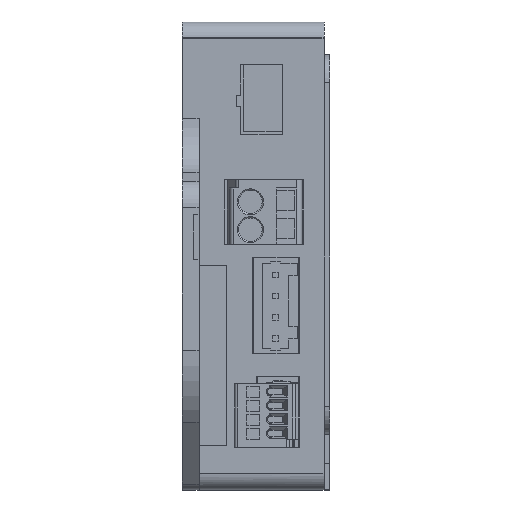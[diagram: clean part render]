
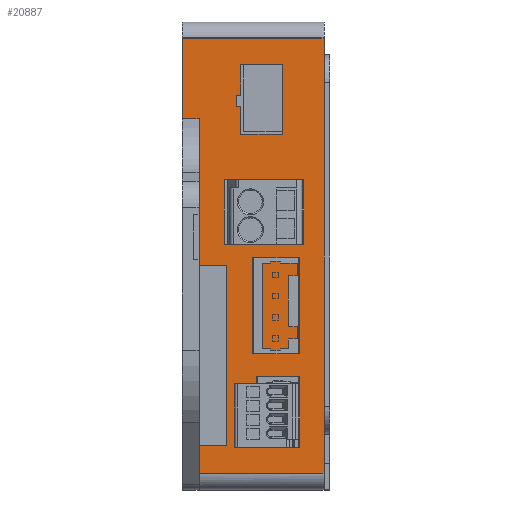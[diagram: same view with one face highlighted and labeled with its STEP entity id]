
A CAD part, front view. The second image highlights one B-rep face of the part: STEP entity #20887.
In plain terms, the highlighted planar face has unit normal (0, -1, 0).
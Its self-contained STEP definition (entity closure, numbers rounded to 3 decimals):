
#165=FACE_BOUND('',#2667,.T.);
#1566=FACE_OUTER_BOUND('',#2666,.T.);
#2666=EDGE_LOOP('',(#17368,#17369,#17370,#17371,#17372,#17373,#17374,#17375,
#17376,#17377,#17378,#17379,#17380,#17381));
#2667=EDGE_LOOP('',(#17382,#17383,#17384,#17385,#17386,#17387,#17388,#17389));
#4952=LINE('',#32615,#7438);
#4977=LINE('',#32691,#7463);
#4981=LINE('',#32699,#7467);
#4985=LINE('',#32707,#7471);
#4986=LINE('',#32709,#7472);
#4987=LINE('',#32711,#7473);
#4988=LINE('',#32713,#7474);
#4989=LINE('',#32715,#7475);
#4990=LINE('',#32717,#7476);
#4991=LINE('',#32719,#7477);
#4992=LINE('',#32721,#7478);
#4993=LINE('',#32723,#7479);
#4994=LINE('',#32725,#7480);
#4995=LINE('',#32726,#7481);
#4996=LINE('',#32729,#7482);
#4997=LINE('',#32731,#7483);
#4998=LINE('',#32733,#7484);
#4999=LINE('',#32735,#7485);
#5000=LINE('',#32737,#7486);
#5001=LINE('',#32739,#7487);
#5002=LINE('',#32741,#7488);
#5003=LINE('',#32742,#7489);
#7438=VECTOR('',#26850,10.);
#7463=VECTOR('',#26891,10.);
#7467=VECTOR('',#26899,10.);
#7471=VECTOR('',#26907,10.);
#7472=VECTOR('',#26908,10.);
#7473=VECTOR('',#26909,10.);
#7474=VECTOR('',#26910,10.);
#7475=VECTOR('',#26911,10.);
#7476=VECTOR('',#26912,10.);
#7477=VECTOR('',#26913,10.);
#7478=VECTOR('',#26914,10.);
#7479=VECTOR('',#26915,10.);
#7480=VECTOR('',#26916,10.);
#7481=VECTOR('',#26917,10.);
#7482=VECTOR('',#26918,10.);
#7483=VECTOR('',#26919,10.);
#7484=VECTOR('',#26920,10.);
#7485=VECTOR('',#26921,10.);
#7486=VECTOR('',#26922,10.);
#7487=VECTOR('',#26923,10.);
#7488=VECTOR('',#26924,10.);
#7489=VECTOR('',#26925,10.);
#9403=VERTEX_POINT('',#32613);
#9404=VERTEX_POINT('',#32614);
#9423=VERTEX_POINT('',#32690);
#9425=VERTEX_POINT('',#32698);
#9427=VERTEX_POINT('',#32706);
#9428=VERTEX_POINT('',#32708);
#9429=VERTEX_POINT('',#32710);
#9430=VERTEX_POINT('',#32712);
#9431=VERTEX_POINT('',#32714);
#9432=VERTEX_POINT('',#32716);
#9433=VERTEX_POINT('',#32718);
#9434=VERTEX_POINT('',#32720);
#9435=VERTEX_POINT('',#32722);
#9436=VERTEX_POINT('',#32724);
#9437=VERTEX_POINT('',#32727);
#9438=VERTEX_POINT('',#32728);
#9439=VERTEX_POINT('',#32730);
#9440=VERTEX_POINT('',#32732);
#9441=VERTEX_POINT('',#32734);
#9442=VERTEX_POINT('',#32736);
#9443=VERTEX_POINT('',#32738);
#9444=VERTEX_POINT('',#32740);
#12095=EDGE_CURVE('',#9403,#9404,#4952,.T.);
#12124=EDGE_CURVE('',#9404,#9423,#4977,.T.);
#12128=EDGE_CURVE('',#9423,#9425,#4981,.T.);
#12132=EDGE_CURVE('',#9427,#9425,#4985,.T.);
#12133=EDGE_CURVE('',#9427,#9428,#4986,.T.);
#12134=EDGE_CURVE('',#9428,#9429,#4987,.T.);
#12135=EDGE_CURVE('',#9430,#9429,#4988,.T.);
#12136=EDGE_CURVE('',#9430,#9431,#4989,.T.);
#12137=EDGE_CURVE('',#9431,#9432,#4990,.T.);
#12138=EDGE_CURVE('',#9433,#9432,#4991,.T.);
#12139=EDGE_CURVE('',#9433,#9434,#4992,.T.);
#12140=EDGE_CURVE('',#9434,#9435,#4993,.T.);
#12141=EDGE_CURVE('',#9436,#9435,#4994,.T.);
#12142=EDGE_CURVE('',#9403,#9436,#4995,.T.);
#12143=EDGE_CURVE('',#9437,#9438,#4996,.T.);
#12144=EDGE_CURVE('',#9438,#9439,#4997,.T.);
#12145=EDGE_CURVE('',#9439,#9440,#4998,.T.);
#12146=EDGE_CURVE('',#9440,#9441,#4999,.T.);
#12147=EDGE_CURVE('',#9441,#9442,#5000,.T.);
#12148=EDGE_CURVE('',#9442,#9443,#5001,.T.);
#12149=EDGE_CURVE('',#9443,#9444,#5002,.T.);
#12150=EDGE_CURVE('',#9444,#9437,#5003,.T.);
#17368=ORIENTED_EDGE('',*,*,#12095,.T.);
#17369=ORIENTED_EDGE('',*,*,#12124,.T.);
#17370=ORIENTED_EDGE('',*,*,#12128,.T.);
#17371=ORIENTED_EDGE('',*,*,#12132,.F.);
#17372=ORIENTED_EDGE('',*,*,#12133,.T.);
#17373=ORIENTED_EDGE('',*,*,#12134,.T.);
#17374=ORIENTED_EDGE('',*,*,#12135,.F.);
#17375=ORIENTED_EDGE('',*,*,#12136,.T.);
#17376=ORIENTED_EDGE('',*,*,#12137,.T.);
#17377=ORIENTED_EDGE('',*,*,#12138,.F.);
#17378=ORIENTED_EDGE('',*,*,#12139,.T.);
#17379=ORIENTED_EDGE('',*,*,#12140,.T.);
#17380=ORIENTED_EDGE('',*,*,#12141,.F.);
#17381=ORIENTED_EDGE('',*,*,#12142,.F.);
#17382=ORIENTED_EDGE('',*,*,#12143,.T.);
#17383=ORIENTED_EDGE('',*,*,#12144,.T.);
#17384=ORIENTED_EDGE('',*,*,#12145,.T.);
#17385=ORIENTED_EDGE('',*,*,#12146,.T.);
#17386=ORIENTED_EDGE('',*,*,#12147,.T.);
#17387=ORIENTED_EDGE('',*,*,#12148,.T.);
#17388=ORIENTED_EDGE('',*,*,#12149,.T.);
#17389=ORIENTED_EDGE('',*,*,#12150,.T.);
#19026=PLANE('',#22254);
#20887=ADVANCED_FACE('',(#1566,#165),#19026,.T.);
#22254=AXIS2_PLACEMENT_3D('',#32705,#26905,#26906);
#26850=DIRECTION('',(1.,0.,0.));
#26891=DIRECTION('',(0.,0.,-1.));
#26899=DIRECTION('',(-1.,0.,0.));
#26905=DIRECTION('center_axis',(0.,-1.,0.));
#26906=DIRECTION('ref_axis',(0.,0.,-1.));
#26907=DIRECTION('',(0.,0.,1.));
#26908=DIRECTION('',(1.,0.,0.));
#26909=DIRECTION('',(0.,0.,1.));
#26910=DIRECTION('',(1.,0.,0.));
#26911=DIRECTION('',(0.,0.,-1.));
#26912=DIRECTION('',(1.,0.,0.));
#26913=DIRECTION('',(0.,0.,1.));
#26914=DIRECTION('',(-1.,0.,0.));
#26915=DIRECTION('',(0.,0.,-1.));
#26916=DIRECTION('',(-1.,0.,0.));
#26917=DIRECTION('',(0.,0.,1.));
#26918=DIRECTION('',(-1.,0.,0.));
#26919=DIRECTION('',(0.,0.,1.));
#26920=DIRECTION('',(-1.,0.,0.));
#26921=DIRECTION('',(0.,0.,1.));
#26922=DIRECTION('',(1.,0.,0.));
#26923=DIRECTION('',(0.,0.,1.));
#26924=DIRECTION('',(1.,0.,0.));
#26925=DIRECTION('',(0.,0.,-1.));
#32613=CARTESIAN_POINT('',(3.,17.346,-39.073));
#32614=CARTESIAN_POINT('',(8.,17.346,-39.073));
#32615=CARTESIAN_POINT('',(4.,17.346,-39.073));
#32690=CARTESIAN_POINT('',(8.,17.346,-71.573));
#32691=CARTESIAN_POINT('',(8.,17.346,-34.925));
#32698=CARTESIAN_POINT('',(3.,17.346,-71.573));
#32699=CARTESIAN_POINT('',(1.5,17.346,-71.573));
#32705=CARTESIAN_POINT('Origin',(0.,17.346,1.722));
#32706=CARTESIAN_POINT('',(3.,17.346,-76.578));
#32707=CARTESIAN_POINT('',(3.,17.346,-27.485));
#32708=CARTESIAN_POINT('',(25.5,17.346,-76.578));
#32709=CARTESIAN_POINT('',(0.,17.346,-76.578));
#32710=CARTESIAN_POINT('',(25.5,17.346,1.722));
#32711=CARTESIAN_POINT('',(25.5,17.346,-20.991));
#32712=CARTESIAN_POINT('',(0.,17.346,1.722));
#32713=CARTESIAN_POINT('',(0.,17.346,1.722));
#32714=CARTESIAN_POINT('',(0.,17.346,-12.729));
#32715=CARTESIAN_POINT('',(0.,17.346,1.722));
#32716=CARTESIAN_POINT('',(3.,17.346,-12.729));
#32717=CARTESIAN_POINT('',(0.,17.346,-12.729));
#32718=CARTESIAN_POINT('',(3.,17.346,-29.978));
#32719=CARTESIAN_POINT('',(3.,17.346,-27.485));
#32720=CARTESIAN_POINT('',(2.,17.346,-29.978));
#32721=CARTESIAN_POINT('',(3.,17.346,-29.978));
#32722=CARTESIAN_POINT('',(2.,17.346,-38.078));
#32723=CARTESIAN_POINT('',(2.,17.346,-74.124));
#32724=CARTESIAN_POINT('',(3.,17.346,-38.078));
#32725=CARTESIAN_POINT('',(3.,17.346,-38.078));
#32726=CARTESIAN_POINT('',(3.,17.346,-27.485));
#32727=CARTESIAN_POINT('',(18.,17.346,-15.5));
#32728=CARTESIAN_POINT('',(10.5,17.346,-15.5));
#32729=CARTESIAN_POINT('',(9.,17.346,-15.5));
#32730=CARTESIAN_POINT('',(10.5,17.346,-10.434));
#32731=CARTESIAN_POINT('',(10.5,17.346,-6.889));
#32732=CARTESIAN_POINT('',(9.682,17.346,-10.434));
#32733=CARTESIAN_POINT('',(5.25,17.346,-10.434));
#32734=CARTESIAN_POINT('',(9.682,17.346,-8.443));
#32735=CARTESIAN_POINT('',(9.682,17.346,-4.356));
#32736=CARTESIAN_POINT('',(10.5,17.346,-8.443));
#32737=CARTESIAN_POINT('',(4.841,17.346,-8.443));
#32738=CARTESIAN_POINT('',(10.5,17.346,-3.));
#32739=CARTESIAN_POINT('',(10.5,17.346,-3.36));
#32740=CARTESIAN_POINT('',(18.,17.346,-3.));
#32741=CARTESIAN_POINT('',(5.25,17.346,-3.));
#32742=CARTESIAN_POINT('',(18.,17.346,-0.639));
